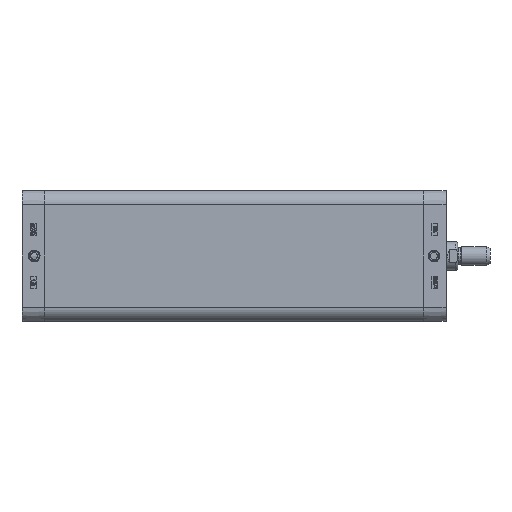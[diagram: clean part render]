
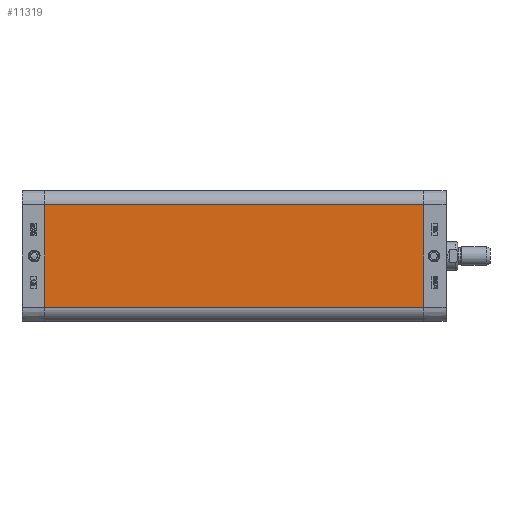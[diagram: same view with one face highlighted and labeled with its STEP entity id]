
A CAD part, left-side view. The second image highlights one B-rep face of the part: STEP entity #11319.
In plain terms, the highlighted planar face has unit normal (-1, 0, 0).
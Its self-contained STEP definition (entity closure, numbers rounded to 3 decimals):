
#5684=CARTESIAN_POINT('',(-56.65,-328.0,44.4));
#5685=VERTEX_POINT('',#5684);
#5692=CARTESIAN_POINT('',(-56.65,-328.0,-44.4));
#5693=VERTEX_POINT('',#5692);
#5694=CARTESIAN_POINT('',(-56.65,-328.0,-44.4));
#5695=DIRECTION('',(0.0,0.0,1.0));
#5696=VECTOR('',#5695,88.8);
#5697=LINE('',#5694,#5696);
#5698=EDGE_CURVE('',#5693,#5685,#5697,.T.);
#11277=CARTESIAN_POINT('',(-56.65,0.0,-44.4));
#11278=VERTEX_POINT('',#11277);
#11279=CARTESIAN_POINT('',(-56.65,0.0,-44.4));
#11280=DIRECTION('',(0.0,-1.0,0.0));
#11281=VECTOR('',#11280,328.0);
#11282=LINE('',#11279,#11281);
#11283=EDGE_CURVE('',#11278,#5693,#11282,.T.);
#11296=CARTESIAN_POINT('',(-56.65,0.0,-44.4));
#11297=DIRECTION('',(-1.0,0.0,0.0));
#11298=DIRECTION('',(0.0,0.0,1.0));
#11299=AXIS2_PLACEMENT_3D('',#11296,#11297,#11298);
#11300=PLANE('',#11299);
#11301=ORIENTED_EDGE('',*,*,#5698,.T.);
#11302=CARTESIAN_POINT('',(-56.65,0.0,44.4));
#11303=VERTEX_POINT('',#11302);
#11304=CARTESIAN_POINT('',(-56.65,0.0,44.4));
#11305=DIRECTION('',(0.0,-1.0,0.0));
#11306=VECTOR('',#11305,328.0);
#11307=LINE('',#11304,#11306);
#11308=EDGE_CURVE('',#11303,#5685,#11307,.T.);
#11309=ORIENTED_EDGE('',*,*,#11308,.F.);
#11310=CARTESIAN_POINT('',(-56.65,0.0,-44.4));
#11311=DIRECTION('',(0.0,0.0,1.0));
#11312=VECTOR('',#11311,88.8);
#11313=LINE('',#11310,#11312);
#11314=EDGE_CURVE('',#11278,#11303,#11313,.T.);
#11315=ORIENTED_EDGE('',*,*,#11314,.F.);
#11316=ORIENTED_EDGE('',*,*,#11283,.T.);
#11317=EDGE_LOOP('',(#11301,#11309,#11315,#11316));
#11318=FACE_OUTER_BOUND('',#11317,.T.);
#11319=ADVANCED_FACE('',(#11318),#11300,.T.);
